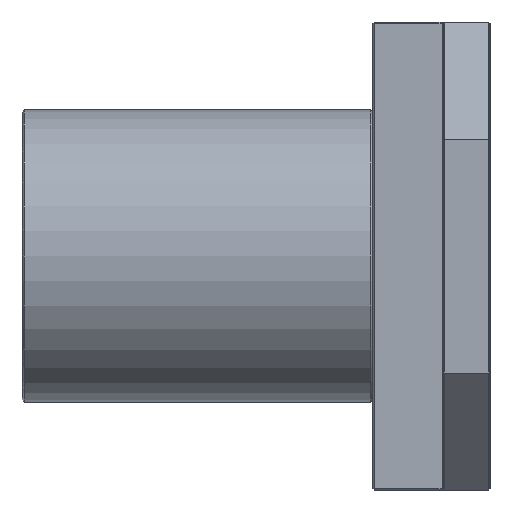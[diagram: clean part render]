
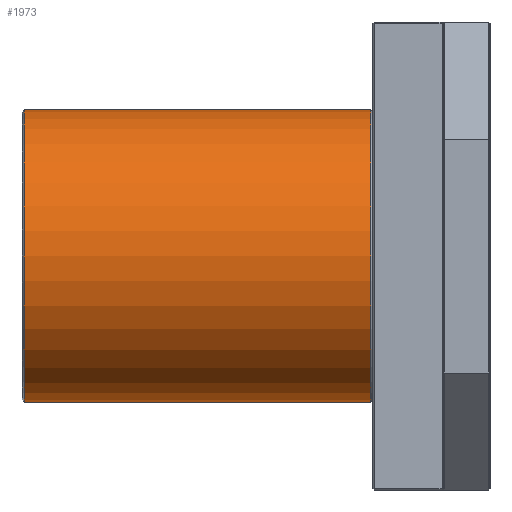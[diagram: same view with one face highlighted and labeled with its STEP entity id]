
A CAD part, left-side view. The second image highlights one B-rep face of the part: STEP entity #1973.
In plain terms, the highlighted cylindrical face has radius 12.5 mm (diameter 25 mm), a partial arc.
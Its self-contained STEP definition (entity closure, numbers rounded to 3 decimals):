
#14 = ORIENTED_EDGE ( 'NONE', *, *, #1728, .T. ) ;
#27 = LINE ( 'NONE', #1379, #1766 ) ;
#236 = AXIS2_PLACEMENT_3D ( 'NONE', #2594, #1208, #550 ) ;
#459 = VERTEX_POINT ( 'NONE', #689 ) ;
#504 = CARTESIAN_POINT ( 'NONE',  ( -12.5, 0., 0. ) ) ;
#550 = DIRECTION ( 'NONE',  ( 0., 0., -1. ) ) ;
#579 = LINE ( 'NONE', #3680, #4368 ) ;
#683 = CARTESIAN_POINT ( 'NONE',  ( -12.5, 39.8, 12.5 ) ) ;
#689 = CARTESIAN_POINT ( 'NONE',  ( -12.5, 10.2, -12.5 ) ) ;
#754 = ORIENTED_EDGE ( 'NONE', *, *, #3976, .T. ) ;
#804 = DIRECTION ( 'NONE',  ( 0., 0., -1. ) ) ;
#941 = EDGE_LOOP ( 'NONE', ( #1604, #4100, #14, #754 ) ) ;
#1208 = DIRECTION ( 'NONE',  ( 0., -1., 0. ) ) ;
#1340 = DIRECTION ( 'NONE',  ( 0., 1., 0. ) ) ;
#1379 = CARTESIAN_POINT ( 'NONE',  ( -12.5, 0., 12.5 ) ) ;
#1409 = VERTEX_POINT ( 'NONE', #3291 ) ;
#1604 = ORIENTED_EDGE ( 'NONE', *, *, #4117, .F. ) ;
#1723 = CARTESIAN_POINT ( 'NONE',  ( -12.5, 10.2, 0. ) ) ;
#1728 = EDGE_CURVE ( 'NONE', #1409, #459, #579, .T. ) ;
#1766 = VECTOR ( 'NONE', #2657, 1000. ) ;
#1973 = ADVANCED_FACE ( 'NONE', ( #3495 ), #2800, .T. ) ;
#2055 = DIRECTION ( 'NONE',  ( 0., 0., 1. ) ) ;
#2144 = DIRECTION ( 'NONE',  ( 0., -1., 0. ) ) ;
#2473 = VERTEX_POINT ( 'NONE', #4223 ) ;
#2594 = CARTESIAN_POINT ( 'NONE',  ( -12.5, 39.8, 0. ) ) ;
#2595 = DIRECTION ( 'NONE',  ( 0., -1., 0. ) ) ;
#2647 = CIRCLE ( 'NONE', #236, 12.5 ) ;
#2657 = DIRECTION ( 'NONE',  ( 0., -1., 0. ) ) ;
#2800 = CYLINDRICAL_SURFACE ( 'NONE', #3373, 12.5 ) ;
#3291 = CARTESIAN_POINT ( 'NONE',  ( -12.5, 39.8, -12.5 ) ) ;
#3373 = AXIS2_PLACEMENT_3D ( 'NONE', #504, #2144, #804 ) ;
#3399 = EDGE_CURVE ( 'NONE', #4334, #1409, #2647, .T. ) ;
#3495 = FACE_OUTER_BOUND ( 'NONE', #941, .T. ) ;
#3680 = CARTESIAN_POINT ( 'NONE',  ( -12.5, 0., -12.5 ) ) ;
#3704 = AXIS2_PLACEMENT_3D ( 'NONE', #1723, #1340, #2055 ) ;
#3976 = EDGE_CURVE ( 'NONE', #459, #2473, #4431, .T. ) ;
#4100 = ORIENTED_EDGE ( 'NONE', *, *, #3399, .T. ) ;
#4117 = EDGE_CURVE ( 'NONE', #4334, #2473, #27, .T. ) ;
#4223 = CARTESIAN_POINT ( 'NONE',  ( -12.5, 10.2, 12.5 ) ) ;
#4334 = VERTEX_POINT ( 'NONE', #683 ) ;
#4368 = VECTOR ( 'NONE', #2595, 1000. ) ;
#4431 = CIRCLE ( 'NONE', #3704, 12.5 ) ;
